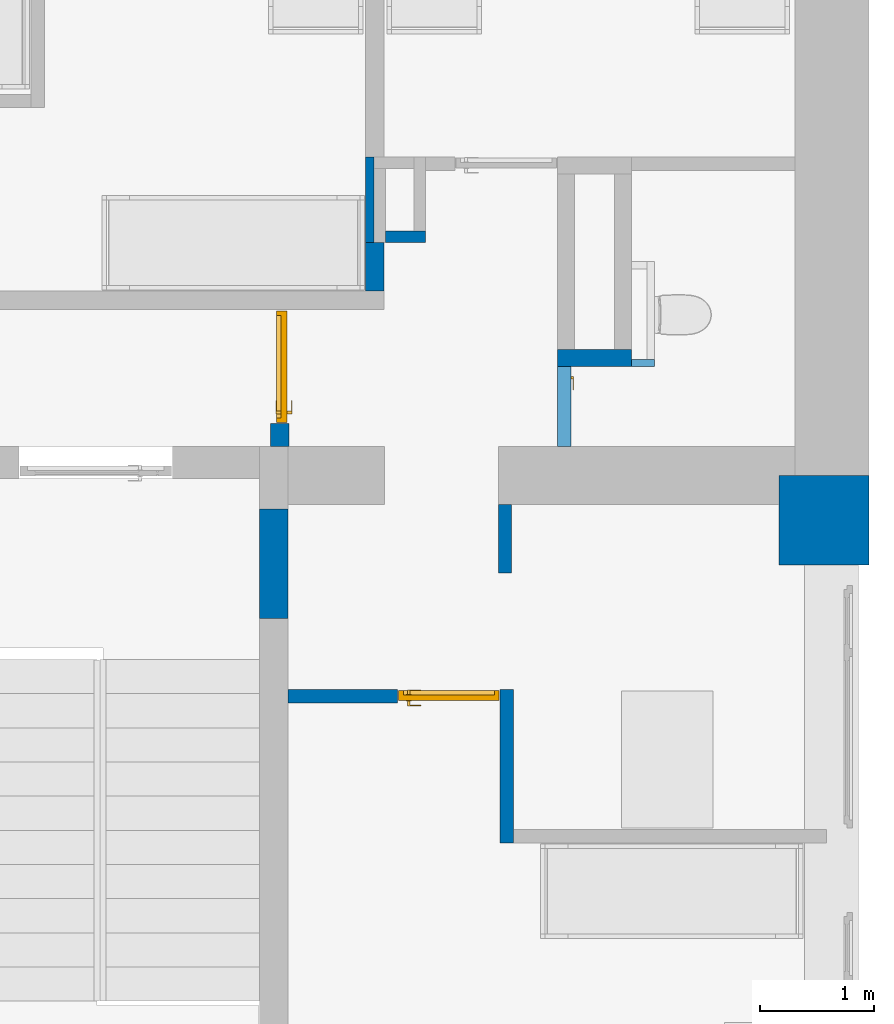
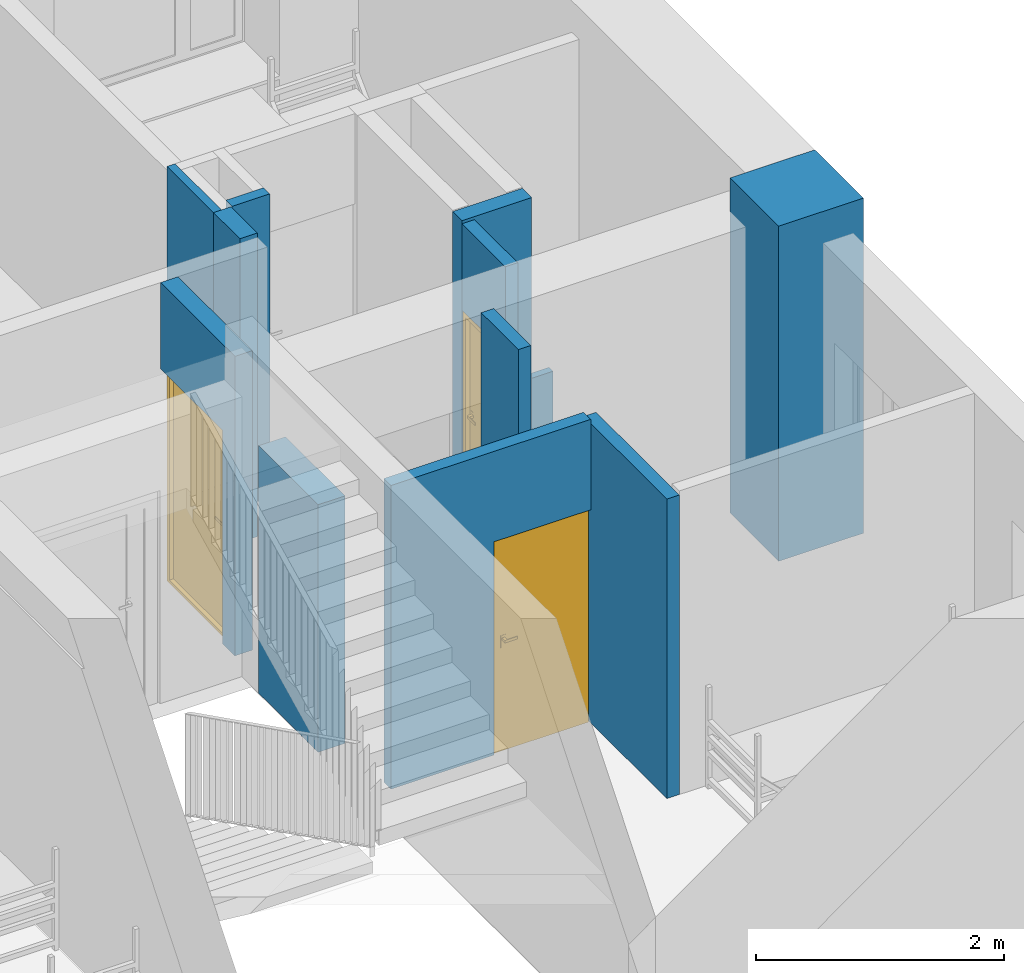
# One storey, part 12 of 48: 12 walls, 3 doors, 5 openings.
"""IFC2X3 building model written with IfcOpenShell, lengths in millimetres."""

from ifc_helpers import new_model, entity, si_unit, converted_unit, derived_unit, direction, frame, frame_2d, origin, place, context, subcontext, project, spatial, rectangle, extrude, faceted_brep, source, transform, mapped, material, material_list, layer, layer_set, layer_usage, type_object, type_shapes, element, fill, save


model = new_model("IFC2X3")

# Units and contexts
model_context = context("Model", 3, precision=0.01, world=origin(), true_north=direction((6.12303176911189e-17, 1.0)))
body_context = subcontext(model_context, "Body", "Model", "MODEL_VIEW")
ifc_project = project(units=[si_unit("LENGTHUNIT", "METRE", prefix="MILLI"), si_unit("AREAUNIT", "SQUARE_METRE"), si_unit("VOLUMEUNIT", "CUBIC_METRE"), converted_unit("PLANEANGLEUNIT", "DEGREE", entity("IfcRatioMeasure", 0.0174532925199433), si_unit("PLANEANGLEUNIT", "RADIAN"), dimensions=[0, 0, 0, 0, 0, 0, 0]), si_unit("MASSUNIT", "GRAM", prefix="KILO"), derived_unit("MASSDENSITYUNIT", [(si_unit("MASSUNIT", "GRAM", prefix="KILO"), 1), (si_unit("LENGTHUNIT", "METRE"), -3)]), si_unit("TIMEUNIT", "SECOND"), si_unit("FREQUENCYUNIT", "HERTZ"), si_unit("THERMODYNAMICTEMPERATUREUNIT", "DEGREE_CELSIUS"), derived_unit("THERMALTRANSMITTANCEUNIT", [(si_unit("MASSUNIT", "GRAM", prefix="KILO"), 1), (si_unit("THERMODYNAMICTEMPERATUREUNIT", "KELVIN"), -1), (si_unit("TIMEUNIT", "SECOND"), -3)]), derived_unit("VOLUMETRICFLOWRATEUNIT", [(si_unit("LENGTHUNIT", "METRE"), 3), (si_unit("TIMEUNIT", "SECOND"), -1)]), si_unit("ELECTRICCURRENTUNIT", "AMPERE"), si_unit("ELECTRICVOLTAGEUNIT", "VOLT"), si_unit("POWERUNIT", "WATT"), si_unit("FORCEUNIT", "NEWTON", prefix="KILO"), si_unit("ILLUMINANCEUNIT", "LUX"), si_unit("LUMINOUSFLUXUNIT", "LUMEN"), si_unit("LUMINOUSINTENSITYUNIT", "CANDELA"), derived_unit("USERDEFINED", [(si_unit("MASSUNIT", "GRAM", prefix="KILO"), -1), (si_unit("LENGTHUNIT", "METRE"), -2), (si_unit("TIMEUNIT", "SECOND"), 3), (si_unit("LUMINOUSFLUXUNIT", "LUMEN"), 1)]), derived_unit("LINEARVELOCITYUNIT", [(si_unit("LENGTHUNIT", "METRE"), 1), (si_unit("TIMEUNIT", "SECOND"), -1)]), si_unit("PRESSUREUNIT", "PASCAL"), derived_unit("USERDEFINED", [(si_unit("LENGTHUNIT", "METRE"), -2), (si_unit("MASSUNIT", "GRAM", prefix="KILO"), 1), (si_unit("TIMEUNIT", "SECOND"), -2)]), derived_unit("LINEARFORCEUNIT", [(si_unit("MASSUNIT", "GRAM", prefix="KILO"), 1), (si_unit("LENGTHUNIT", "METRE"), 1), (si_unit("TIMEUNIT", "SECOND"), -2), (si_unit("LENGTHUNIT", "METRE"), -1)]), derived_unit("PLANARFORCEUNIT", [(si_unit("MASSUNIT", "GRAM", prefix="KILO"), 1), (si_unit("LENGTHUNIT", "METRE"), 1), (si_unit("TIMEUNIT", "SECOND"), -2), (si_unit("LENGTHUNIT", "METRE"), -2)])], contexts=[model_context])

# Site, building, storey
site_placement = place(None, origin())
site = spatial("IfcSite", under=ifc_project, at=site_placement, Name="Default", CompositionType="ELEMENT")
building_placement = place(site_placement, origin())
building = spatial("IfcBuilding", under=site, at=building_placement, Name="SMA ARH", CompositionType="ELEMENT")
storey_placement = place(building_placement, frame((0.0, 0.0, 3300.0)))
storey = spatial("IfcBuildingStorey", under=building, at=storey_placement, Name="2 Korrus", CompositionType="ELEMENT", Elevation=3299.99999999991)

# Wall, opening
ifc_material_1 = material(Name="EST. Müüritis. Väikeplokk. Kergkruusplokk")
ifc_layer_1 = layer(ifc_material_1, 150.0)
ifc_layer_set_1 = layer_set([ifc_layer_1], Name="Basic Wall:SS-02_ 150mm šahtide vahesein")
ifc_layer_usage_1 = layer_usage(ifc_layer_set_1, "AXIS2", "POSITIVE", -75.0)
wall_type_1 = type_object("IfcWallType", Name="Basic Wall:SS-02_ 150mm šahtide vahesein", PredefinedType="STANDARD", material=ifc_layer_set_1)
wall_1_placement = place(storey_placement, frame((36880.0, 7295.0, 0.0), z_axis=(0.0, 0.0, 1.0), x_axis=(-1.0, 0.0, 0.0)))
wall_1 = element("IfcWallStandardCase", 1, at=wall_1_placement, inside=storey, type_object=wall_type_1, material=ifc_layer_usage_1, Name="Basic Wall:SS-02_ 150mm šahtide vahesein", ObjectType="Basic Wall:SS-02_ 150mm šahtide vahesein", context=body_context, shape_type="SweptSolid", body=[
    extrude(rectangle(XDim=649.999999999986, YDim=150.000000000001, at=frame_2d((324.999999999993, 4.68958205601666e-13), x_axis=(-1.0, 0.0))), origin(), (0.0, 0.0, 1.0), 2979.99999999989),
])
opening_1_placement = place(wall_1_placement, origin())
element("IfcOpeningElement", 2, at=opening_1_placement, cuts=wall_1, Name="Basic Wall:SS-02_ 150mm šahtide vahesein", ObjectType="Opening", context=body_context, shape_type="SweptSolid", body=[
    extrude(rectangle(XDim=2099.99999999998, YDim=116.0, at=frame_2d((0.0, 0.0), x_axis=(0.0, 1.0))), frame((592.0, 75.0000093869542, 1050.0), z_axis=(0.0, 1.0, 0.0), x_axis=(-1.0, 0.0, 0.0)), (0.0, 0.0, 1.0), 700.0),
])

# Wall
ifc_material_2 = material(Name="_ol.olev sein")
ifc_layer_2 = layer(ifc_material_2, 790.0)
ifc_layer_set_2 = layer_set([ifc_layer_2], Name="Basic Wall:Generic - 790mm")
ifc_layer_usage_2 = layer_usage(ifc_layer_set_2, "AXIS2", "NEGATIVE", 395.0)
wall_type_2 = type_object("IfcWallType", Name="Basic Wall:Generic - 790mm", PredefinedType="STANDARD", material=ifc_layer_set_2)
wall_2_placement = place(storey_placement, frame((38570.0, 6265.0, 0.0), z_axis=(0.0, 0.0, 1.0), x_axis=(0.0, -1.0, 0.0)))
element("IfcWallStandardCase", 3, at=wall_2_placement, inside=storey, type_object=wall_type_2, material=ifc_layer_usage_2, Name="Basic Wall:Generic - 790mm", ObjectType="Basic Wall:Generic - 790mm", context=body_context, shape_type="SweptSolid", body=[
    extrude(rectangle(XDim=785.000000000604, YDim=790.000000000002, at=frame_2d((392.500000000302, 0.0), x_axis=(-1.0, 0.0))), origin(), (0.0, 0.0, 1.0), 3299.99999999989),
])

# Wall, opening, door
ifc_material_3 = material(Name="EST. Ehitusplaat. Kipsplaat")
ifc_layer_3 = layer(ifc_material_3, 12.5)
ifc_layer_4 = layer(ifc_material_3, 12.5)
ifc_material_4 = material(Name="EST. Soojustus. Mineraalvill. Default")
ifc_layer_5 = layer(ifc_material_4, 50.0)
ifc_layer_6 = layer(ifc_material_3, 12.5)
ifc_layer_7 = layer(ifc_material_4, 50.0)
ifc_layer_8 = layer(ifc_material_3, 12.5)
ifc_layer_9 = layer(ifc_material_3, 12.5)
ifc_layer_set_3 = layer_set([ifc_layer_3, ifc_layer_4, ifc_layer_5, ifc_layer_6, ifc_layer_7, ifc_layer_8, ifc_layer_9], Name="Basic Wall:SS-04_Kips, 50+50 mm metallkarkass 2")
ifc_layer_usage_3 = layer_usage(ifc_layer_set_3, "AXIS2", "NEGATIVE", 81.25)
wall_type_3 = type_object("IfcWallType", Name="Basic Wall:SS-04_Kips, 50+50 mm metallkarkass 2", PredefinedType="STANDARD", material=ifc_layer_set_3)
wall_3_placement = place(storey_placement, frame((33792.5000000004, 7720.0, 0.0), z_axis=(0.0, 0.0, 1.0), x_axis=(0.0, -1.0, 0.0)))
wall_3 = element("IfcWallStandardCase", 4, at=wall_3_placement, inside=storey, type_object=wall_type_3, material=ifc_layer_usage_3, Name="Basic Wall:SS-04_Kips, 50+50 mm metallkarkass 2", ObjectType="Basic Wall:SS-04_Kips, 50+50 mm metallkarkass 2", context=body_context, shape_type="SweptSolid", body=[
    extrude(rectangle(XDim=1200.00000000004, YDim=162.499999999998, at=frame_2d((600.000000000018, 0.0), x_axis=(-1.0, 0.0))), origin(), (0.0, 0.0, 1.0), 2949.99999999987),
])
opening_2_placement = place(wall_3_placement, frame((0.0, -81.2499999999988, 0.0)))
opening_2 = element("IfcOpeningElement", 5, at=opening_2_placement, cuts=wall_3, Name="SMA_D01, 1-poolne:SU-P-04 - 1000x2100 EI-30:1", ObjectType="Opening", context=body_context, shape_type="SweptSolid", body=[
    extrude(rectangle(XDim=2099.99999999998, YDim=1000.0, at=frame_2d((1049.99999999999, 500.0), x_axis=(1.0, 0.0))), frame((0.0, 0.0, 0.0), z_axis=(0.0, 1.0, 0.0), x_axis=(0.0, 0.0, 1.0)), (0.0, 0.0, 1.0), 162.5),
])
ifc_material_5 = material(Name="EST. Metall. Alumiinium. Värvitud. RAL7023 (Concrete grey)")
ifc_material_6 = material(Name="<Unnamed>")
ifc_material_7 = material(Name="EST. Klaas. 3x. Default")
ifc_material_list_1 = material_list([ifc_material_5, ifc_material_5, ifc_material_5, ifc_material_6, ifc_material_7, ifc_material_6, ifc_material_6])
door_style_1 = type_object("IfcDoorStyle", Name="SMA_D01, 1-poolne:SU-P-04 - 1000x2100 EI-30", ConstructionType="NOTDEFINED", OperationType="SINGLE_SWING_LEFT", ParameterTakesPrecedence=False, Sizeable=False, material=ifc_material_list_1)
shared_shape_1 = source(origin(), body_context, "Body", "Brep", [
    faceted_brep([(890.0, 52.5000000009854, 1112.5), (795.0, 52.5000000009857, 1112.5), (795.0, 47.5000000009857, 1112.5), (915.0, 47.5000000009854, 1112.5), (915.0, 90.5000000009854, 1112.5), (890.0, 90.5000000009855, 1112.5), (890.0, 52.5000000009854, 1087.5), (890.0, 90.5000000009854, 1087.5), (915.0, 90.5000000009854, 1087.5), (915.0, 47.5000000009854, 1087.5), (795.0, 47.5000000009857, 1087.5), (795.0, 52.5000000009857, 1087.5)], [[[0, 1, 2, 3, 4, 5]], [[6, 7, 8, 9, 10, 11]], [[5, 7, 6, 0]], [[4, 8, 7, 5]], [[3, 9, 8, 4]], [[2, 10, 9, 3]], [[1, 11, 10, 2]], [[0, 6, 11, 1]]]),
    faceted_brep([(877.500000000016, 90.5000000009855, 1137.5), (927.500000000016, 90.5000000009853, 1137.5), (927.500000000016, 92.5000000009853, 1137.5), (877.500000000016, 92.5000000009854, 1137.5), (877.500000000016, 90.5000000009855, 1017.5), (877.500000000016, 92.5000000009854, 1017.5), (927.500000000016, 92.5000000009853, 1017.5), (927.500000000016, 90.5000000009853, 1017.5)], [[[0, 1, 2, 3]], [[4, 5, 6, 7]], [[3, 5, 4, 0]], [[2, 6, 5, 3]], [[1, 7, 6, 2]], [[0, 4, 7, 1]]]),
    faceted_brep([(890.0, 182.500000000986, 1112.5), (890.0, 144.500000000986, 1112.5), (915.0, 144.500000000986, 1112.5), (915.0, 187.500000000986, 1112.5), (795.0, 187.500000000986, 1112.5), (795.0, 182.500000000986, 1112.5), (890.0, 182.500000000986, 1087.5), (795.0, 182.500000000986, 1087.5), (795.0, 187.500000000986, 1087.5), (915.0, 187.500000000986, 1087.5), (915.0, 144.500000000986, 1087.5), (890.0, 144.500000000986, 1087.5)], [[[0, 1, 2, 3, 4, 5]], [[6, 7, 8, 9, 10, 11]], [[1, 0, 6, 11]], [[2, 1, 11, 10]], [[3, 2, 10, 9]], [[4, 3, 9, 8]], [[5, 4, 8, 7]], [[0, 5, 7, 6]]]),
    faceted_brep([(877.500000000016, 144.500000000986, 1137.5), (877.500000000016, 142.500000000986, 1137.5), (927.500000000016, 142.500000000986, 1137.5), (927.500000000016, 144.500000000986, 1137.5), (877.500000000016, 144.500000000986, 1017.5), (927.500000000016, 144.500000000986, 1017.5), (927.500000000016, 142.500000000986, 1017.5), (877.500000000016, 142.500000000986, 1017.5)], [[[0, 1, 2, 3]], [[4, 5, 6, 7]], [[1, 0, 4, 7]], [[2, 1, 7, 6]], [[3, 2, 6, 5]], [[0, 3, 5, 4]]]),
    faceted_brep([(50.0, 52.5000000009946, 30.0), (50.0, 92.5000000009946, 30.0), (50.0, 92.5000000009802, 20.0), (50.0, 92.5000000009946, 0.0), (50.0, 52.5000000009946, 0.0), (950.0, 52.5000000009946, 30.0), (950.0, 52.5000000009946, 0.0), (950.0, 92.5000000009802, 0.0), (950.0, 92.5000000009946, 20.0), (950.0, 92.5000000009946, 30.0), (35.0, 92.5000000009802, 0.0), (35.0, 142.500000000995, 0.0), (965.0, 142.500000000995, 0.0), (965.0, 92.5000000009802, 0.0), (35.0, 142.500000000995, 20.0), (35.0, 92.5000000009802, 20.0), (965.0, 142.500000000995, 20.0), (965.0, 92.5000000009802, 20.0)], [[[0, 1, 2, 3, 4]], [[5, 6, 7, 8, 9]], [[4, 6, 5, 0]], [[3, 10, 11, 12, 13, 7, 6, 4]], [[9, 8, 2, 1]], [[0, 5, 9, 1]], [[14, 11, 10, 15]], [[16, 17, 13, 12]], [[15, 2, 8, 17, 16, 14]], [[10, 3, 2, 15]], [[14, 16, 12, 11]], [[17, 8, 7, 13]]]),
    faceted_brep([(10.0, 52.5000000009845, 0.0), (10.0, 142.500000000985, 0.0), (35.0, 142.500000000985, 0.0), (35.0, 92.5000000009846, 0.0), (50.0, 92.5000000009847, 0.0), (50.0, 52.5000000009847, 0.0), (50.0, 52.5000000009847, 2050.0), (950.0, 52.5000000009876, 2050.0), (950.0, 52.5000000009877, 0.0), (990.0, 52.5000000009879, 0.0), (990.0, 52.5000000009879, 2090.0), (10.0, 52.5000000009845, 2090.0), (50.0, 92.5000000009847, 2050.0), (35.0, 92.5000000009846, 2065.0), (965.0, 92.5000000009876, 2065.0), (965.0, 92.5000000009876, 0.0), (950.0, 92.5000000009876, 0.0), (950.0, 92.5000000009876, 2050.0), (35.0, 142.500000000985, 2065.0), (10.0, 142.500000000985, 2090.0), (990.0, 142.500000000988, 2090.0), (990.0, 142.500000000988, 0.0), (965.0, 142.500000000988, 0.0), (965.0, 142.500000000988, 2065.0)], [[[0, 1, 2, 3, 4, 5]], [[5, 6, 7, 8, 9, 10, 11, 0]], [[4, 12, 6, 5]], [[3, 13, 14, 15, 16, 17, 12, 4]], [[2, 18, 13, 3]], [[1, 19, 20, 21, 22, 23, 18, 2]], [[0, 11, 19, 1]], [[9, 21, 20, 10]], [[8, 16, 15, 22, 21, 9]], [[7, 17, 16, 8]], [[14, 23, 22, 15]], [[6, 12, 17, 7]], [[13, 18, 23, 14]], [[10, 20, 19, 11]]]),
    faceted_brep([(965.0, 92.5000000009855, 2065.0), (35.0, 92.5000000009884, 2065.0), (35.0, 92.5000000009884, 20.0), (965.0, 92.5000000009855, 20.0), (965.0, 142.500000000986, 2065.0), (965.0, 142.500000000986, 20.0), (35.0, 142.500000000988, 20.0), (35.0, 142.500000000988, 2065.0)], [[[0, 1, 2, 3]], [[4, 5, 6, 7]], [[3, 5, 4, 0]], [[2, 6, 5, 3]], [[1, 7, 6, 2]], [[0, 4, 7, 1]]]),
])
type_shapes(door_style_1, [shared_shape_1])
door_1_placement = place(opening_2_placement, origin())
door_1 = element("IfcDoor", 6, at=door_1_placement, inside=storey, type_object=door_style_1, material=ifc_material_5, Name="SMA_D01, 1-poolne:SU-P-04 - 1000x2100 EI-30", ObjectType="SMA_D01, 1-poolne:SU-P-04 - 1000x2100 EI-30", OverallHeight=2099.99999999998, OverallWidth=999.999999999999, context=body_context, shape_type="MappedRepresentation", body=[
    mapped(shared_shape_1, transform((0.0, 0.0, 0.0), scale=1.0)),
])
fill(opening_2, door_1)

# Wall
ifc_layer_usage_4 = layer_usage(ifc_layer_set_3, "AXIS2", "NEGATIVE", 81.25)
wall_4_placement = place(storey_placement, frame((34625.5000000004, 8309.50140528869, 0.0), z_axis=(0.0, 0.0, 1.0), x_axis=(0.0, -1.0, 0.0)))
element("IfcWallStandardCase", 7, at=wall_4_placement, inside=storey, type_object=wall_type_3, material=ifc_layer_usage_4, Name="Basic Wall:SS-04_Kips, 50+50 mm metallkarkass 2", ObjectType="Basic Wall:SS-04_Kips, 50+50 mm metallkarkass 2", context=body_context, shape_type="SweptSolid", body=[
    extrude(rectangle(XDim=427.001405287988, YDim=162.499999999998, at=frame_2d((213.500702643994, 0.0), x_axis=(-1.0, 0.0))), origin(), (0.0, 0.0, 1.0), 2989.99999999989),
])

# Wall, opening
ifc_layer_10 = layer(ifc_material_3, 12.5)
ifc_layer_11 = layer(ifc_material_3, 12.5)
ifc_layer_12 = layer(ifc_material_4, 66.0)
ifc_layer_13 = layer(ifc_material_3, 12.5)
ifc_layer_14 = layer(ifc_material_3, 12.5)
ifc_layer_set_4 = layer_set([ifc_layer_10, ifc_layer_11, ifc_layer_12, ifc_layer_13, ifc_layer_14], Name="Basic Wall:SS-05_Kips, 66mm metallkarkass")
ifc_layer_usage_5 = layer_usage(ifc_layer_set_4, "AXIS2", "NEGATIVE", 58.0)
wall_type_4 = type_object("IfcWallType", Name="Basic Wall:SS-05_Kips, 66mm metallkarkass", PredefinedType="STANDARD", material=ifc_layer_set_4)
wall_5_placement = place(storey_placement, frame((35783.5000000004, 3039.50000000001, 0.0), z_axis=(0.0, 0.0, 1.0), x_axis=(0.0, 1.0, 0.0)))
wall_5 = element("IfcWallStandardCase", 8, at=wall_5_placement, inside=storey, type_object=wall_type_4, material=ifc_layer_usage_5, Name="Basic Wall:SS-05_Kips, 66mm metallkarkass", ObjectType="Basic Wall:SS-05_Kips, 66mm metallkarkass", context=body_context, shape_type="SweptSolid", body=[
    extrude(rectangle(XDim=1344.49999999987, YDim=116.0, at=frame_2d((672.249999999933, 0.0), x_axis=(-1.0, 0.0))), origin(), (0.0, 0.0, 1.0), 2949.99999999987),
])
opening_3_placement = place(wall_5_placement, origin())
element("IfcOpeningElement", 9, at=opening_3_placement, cuts=wall_5, Name="Basic Wall:SS-05_Kips, 66mm metallkarkass", ObjectType="Opening", context=body_context, shape_type="SweptSolid", body=[
    extrude(rectangle(XDim=2099.99999999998, YDim=116.0, at=frame_2d((2.70006239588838e-13, 0.0), x_axis=(0.0, 1.0))), frame((1286.49999999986, 58.0, 1050.0), z_axis=(0.0, 1.0, 0.0), x_axis=(1.0, 0.0, 0.0)), (0.0, 0.0, 1.0), 900.000000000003),
])

# Wall
ifc_layer_usage_6 = layer_usage(ifc_layer_set_4, "AXIS2", "NEGATIVE", 58.0)
wall_6_placement = place(storey_placement, frame((35768.0, 6010.0, 0.0), z_axis=(0.0, 0.0, 1.0), x_axis=(0.0, -1.0, 0.0)))
element("IfcWallStandardCase", 10, at=wall_6_placement, inside=storey, type_object=wall_type_4, material=ifc_layer_usage_6, Name="Basic Wall:SS-05_Kips, 66mm metallkarkass", ObjectType="Basic Wall:SS-05_Kips, 66mm metallkarkass", context=body_context, shape_type="SweptSolid", body=[
    extrude(rectangle(XDim=599.999999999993, YDim=116.0, at=frame_2d((299.999999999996, 0.0), x_axis=(-1.0, 0.0))), origin(), (0.0, 0.0, 1.0), 2989.99999999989),
])

# Wall, opening, door
ifc_layer_usage_7 = layer_usage(ifc_layer_set_4, "AXIS2", "NEGATIVE", 58.0)
wall_7_placement = place(storey_placement, frame((35725.5000000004, 4326.0, 0.0), z_axis=(0.0, 0.0, 1.0), x_axis=(-1.0, 0.0, 0.0)))
wall_7 = element("IfcWallStandardCase", 11, at=wall_7_placement, inside=storey, type_object=wall_type_4, material=ifc_layer_usage_7, Name="Basic Wall:SS-05_Kips, 66mm metallkarkass", ObjectType="Basic Wall:SS-05_Kips, 66mm metallkarkass", context=body_context, shape_type="SweptSolid", body=[
    extrude(rectangle(XDim=1860.50000000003, YDim=116.0, at=frame_2d((930.250000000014, -1.59872115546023e-13), x_axis=(-1.0, 0.0))), origin(), (0.0, 0.0, 1.0), 2989.99999999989),
])
opening_4_placement = place(wall_7_placement, frame((0.0, -58.0, 0.0)))
opening_4 = element("IfcOpeningElement", 12, at=opening_4_placement, cuts=wall_7, Name="SMA_D01, 1-poolne:SU-P-05 - 900x2100 TUBA:1", ObjectType="Opening", context=body_context, shape_type="SweptSolid", body=[
    extrude(rectangle(XDim=2099.99999999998, YDim=900.0, at=frame_2d((1049.99999999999, 450.000000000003), x_axis=(1.0, 0.0))), frame((0.0, 0.0, 0.0), z_axis=(0.0, 1.0, 0.0), x_axis=(0.0, 0.0, 1.0)), (0.0, 0.0, 1.0), 116.0),
])
ifc_material_list_2 = material_list([ifc_material_5, ifc_material_6, ifc_material_5, ifc_material_6, ifc_material_6, ifc_material_7, ifc_material_5])
door_style_2 = type_object("IfcDoorStyle", Name="SMA_D01, 1-poolne:SU-P-05 - 900x2100 TUBA", ConstructionType="NOTDEFINED", OperationType="SINGLE_SWING_LEFT", ParameterTakesPrecedence=False, Sizeable=False, material=ifc_material_list_2)
shared_shape_2 = source(origin(), body_context, "Body", "Brep", [
    faceted_brep([(790.0, 6.0, 1112.5), (695.0, 6.0, 1112.5), (695.0, 1.0, 1112.5), (815.0, 1.0, 1112.5), (815.0, 44.0, 1112.5), (790.0, 44.0, 1112.5), (790.0, 6.0, 1087.5), (790.0, 44.0, 1087.5), (815.0, 44.0, 1087.5), (815.0, 1.0, 1087.5), (695.0, 1.0, 1087.5), (695.0, 6.0, 1087.5)], [[[0, 1, 2, 3, 4, 5]], [[6, 7, 8, 9, 10, 11]], [[5, 7, 6, 0]], [[4, 8, 7, 5]], [[3, 9, 8, 4]], [[2, 10, 9, 3]], [[1, 11, 10, 2]], [[0, 6, 11, 1]]]),
    faceted_brep([(777.500000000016, 44.0, 1137.5), (827.500000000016, 44.0, 1137.5), (827.500000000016, 46.0, 1137.5), (777.500000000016, 46.0, 1137.5), (777.500000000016, 44.0, 1017.5), (777.500000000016, 46.0, 1017.5), (827.500000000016, 46.0, 1017.5), (827.500000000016, 44.0, 1017.5)], [[[0, 1, 2, 3]], [[4, 5, 6, 7]], [[3, 5, 4, 0]], [[2, 6, 5, 3]], [[1, 7, 6, 2]], [[0, 4, 7, 1]]]),
    faceted_brep([(790.0, 136.0, 1112.5), (790.0, 98.0, 1112.5), (815.0, 98.0, 1112.5), (815.0, 141.0, 1112.5), (695.0, 141.0, 1112.5), (695.0, 136.0, 1112.5), (790.0, 136.0, 1087.5), (695.0, 136.0, 1087.5), (695.0, 141.0, 1087.5), (815.0, 141.0, 1087.5), (815.0, 98.0, 1087.5), (790.0, 98.0, 1087.5)], [[[0, 1, 2, 3, 4, 5]], [[6, 7, 8, 9, 10, 11]], [[1, 0, 6, 11]], [[2, 1, 11, 10]], [[3, 2, 10, 9]], [[4, 3, 9, 8]], [[5, 4, 8, 7]], [[0, 5, 7, 6]]]),
    faceted_brep([(777.500000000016, 98.0, 1137.5), (777.500000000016, 96.0, 1137.5), (827.500000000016, 96.0, 1137.5), (827.500000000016, 98.0, 1137.5), (777.500000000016, 98.0, 1017.5), (827.500000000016, 98.0, 1017.5), (827.500000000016, 96.0, 1017.5), (777.500000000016, 96.0, 1017.5)], [[[0, 1, 2, 3]], [[4, 5, 6, 7]], [[1, 0, 4, 7]], [[2, 1, 7, 6]], [[3, 2, 6, 5]], [[0, 3, 5, 4]]]),
    faceted_brep([(50.0, 6.0, 30.0), (50.0, 46.0, 30.0), (50.0, 46.0, 20.0), (50.0, 46.0, 0.0), (50.0, 6.0, 0.0), (850.0, 6.0, 30.0), (850.0, 6.0, 0.0), (850.0, 46.0, 0.0), (850.0, 46.0, 20.0), (850.0, 46.0, 30.0), (35.0, 46.0, 0.0), (35.0, 96.0, 0.0), (865.0, 96.0, 0.0), (865.0, 46.0, 0.0), (35.0, 96.0, 20.0), (35.0, 46.0, 20.0), (865.0, 96.0, 20.0), (865.0, 46.0, 20.0)], [[[0, 1, 2, 3, 4]], [[5, 6, 7, 8, 9]], [[4, 6, 5, 0]], [[3, 10, 11, 12, 13, 7, 6, 4]], [[9, 8, 2, 1]], [[0, 5, 9, 1]], [[14, 11, 10, 15]], [[16, 17, 13, 12]], [[15, 2, 8, 17, 16, 14]], [[10, 3, 2, 15]], [[14, 16, 12, 11]], [[17, 8, 7, 13]]]),
    faceted_brep([(10.0, 6.0, 0.0), (10.0, 96.0, 0.0), (35.0, 96.0, 0.0), (35.0, 46.0, 0.0), (50.0, 46.0, 0.0), (50.0, 6.0, 0.0), (50.0, 6.0, 2050.0), (850.0, 6.0, 2050.0), (850.0, 6.0, 0.0), (890.0, 6.0, 0.0), (890.0, 6.0, 2090.0), (10.0, 6.0, 2090.0), (50.0, 46.0, 2050.0), (35.0, 46.0, 2065.0), (865.0, 46.0, 2065.0), (865.0, 46.0, 0.0), (850.0, 46.0, 0.0), (850.0, 46.0, 2050.0), (35.0, 96.0, 2065.0), (10.0, 96.0, 2090.0), (890.0, 96.0, 2090.0), (890.0, 96.0, 0.0), (865.0, 96.0, 0.0), (865.0, 96.0, 2065.0)], [[[0, 1, 2, 3, 4, 5]], [[5, 6, 7, 8, 9, 10, 11, 0]], [[4, 12, 6, 5]], [[3, 13, 14, 15, 16, 17, 12, 4]], [[2, 18, 13, 3]], [[1, 19, 20, 21, 22, 23, 18, 2]], [[0, 11, 19, 1]], [[9, 21, 20, 10]], [[8, 16, 15, 22, 21, 9]], [[7, 17, 16, 8]], [[14, 23, 22, 15]], [[6, 12, 17, 7]], [[13, 18, 23, 14]], [[10, 20, 19, 11]]]),
    faceted_brep([(865.0, 46.0, 2065.0), (35.0, 46.0, 2065.0), (35.0, 46.0, 20.0), (865.0, 46.0, 20.0), (865.0, 96.0, 2065.0), (865.0, 96.0, 20.0), (35.0, 96.0, 20.0), (35.0, 96.0, 2065.0)], [[[0, 1, 2, 3]], [[4, 5, 6, 7]], [[3, 5, 4, 0]], [[2, 6, 5, 3]], [[1, 7, 6, 2]], [[0, 4, 7, 1]]]),
])
type_shapes(door_style_2, [shared_shape_2])
door_2_placement = place(opening_4_placement, origin())
door_2 = element("IfcDoor", 13, at=door_2_placement, inside=storey, type_object=door_style_2, material=ifc_material_5, Name="SMA_D01, 1-poolne:SU-P-05 - 900x2100 TUBA", ObjectType="SMA_D01, 1-poolne:SU-P-05 - 900x2100 TUBA", OverallHeight=2099.99999999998, OverallWidth=900.000000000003, context=body_context, shape_type="MappedRepresentation", body=[
    mapped(shared_shape_2, transform((0.0, 0.0, 0.0), scale=1.0)),
])
fill(opening_4, door_2)

ifc_layer_15 = layer(ifc_material_3, 12.5)
ifc_layer_16 = layer(ifc_material_3, 12.5)
ifc_material_8 = material(Name="EST. Õhkvahe. Roov. Kipsplaadi alusroov. Vertikaalne")
ifc_layer_17 = layer(ifc_material_8, 66.0)
ifc_layer_18 = layer(ifc_material_3, 12.5)
ifc_layer_19 = layer(ifc_material_3, 12.5)
ifc_layer_set_5 = layer_set([ifc_layer_15, ifc_layer_16, ifc_layer_17, ifc_layer_18, ifc_layer_19], Name="Basic Wall:SS-03_Kips, 66mm metallkarkass")
ifc_layer_usage_8 = layer_usage(ifc_layer_set_5, "AXIS2", "NEGATIVE", 58.0)
wall_type_5 = type_object("IfcWallType", Name="Basic Wall:SS-03_Kips, 66mm metallkarkass", PredefinedType="STANDARD", material=ifc_layer_set_5)
wall_8_placement = place(storey_placement, frame((36288.0, 7220.0, 2100.0), z_axis=(0.0, 0.0, 1.0), x_axis=(0.0, -1.0, 0.0)))
wall_8 = element("IfcWallStandardCase", 14, at=wall_8_placement, inside=storey, type_object=wall_type_5, material=ifc_layer_usage_8, Name="Basic Wall:SS-03_Kips, 66mm metallkarkass", ObjectType="Basic Wall:SS-03_Kips, 66mm metallkarkass", context=body_context, shape_type="SweptSolid", body=[
    extrude(rectangle(XDim=700.000009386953, YDim=116.0, at=frame_2d((350.000004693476, 0.0), x_axis=(-1.0, 0.0))), origin(), (0.0, 0.0, 1.0), 849.999999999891),
])
opening_5_placement = place(wall_8_placement, frame((0.0, -58.0, -2100.0)))
opening_5 = element("IfcOpeningElement", 15, at=opening_5_placement, cuts=wall_8, Name="SMA_D01, 1-poolne:SU-P-08 - 700x2100 DUŠŠ:1", ObjectType="Opening", context=body_context, shape_type="SweptSolid", body=[
    extrude(rectangle(XDim=2099.99999999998, YDim=700.0, at=frame_2d((1049.99999999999, 350.0), x_axis=(1.0, 0.0))), frame((0.0, 0.0, 0.0), z_axis=(0.0, 1.0, 0.0), x_axis=(0.0, 0.0, 1.0)), (0.0, 0.0, 1.0), 116.0),
])
ifc_material_list_3 = material_list([ifc_material_5, ifc_material_7, ifc_material_6, ifc_material_5, ifc_material_6, ifc_material_6, ifc_material_5])
door_style_3 = type_object("IfcDoorStyle", Name="SMA_D01, 1-poolne:SU-P-08 - 700x2100 DUŠŠ", ConstructionType="NOTDEFINED", OperationType="NOTDEFINED", ParameterTakesPrecedence=False, Sizeable=False, material=ifc_material_list_3)
shared_shape_3 = source(origin(), body_context, "Body", "Brep", [
    faceted_brep([(110.0, 6.0, 1112.5), (110.0, 44.0, 1112.5), (85.0, 44.0, 1112.5), (85.0, 1.0, 1112.5), (205.0, 1.0, 1112.5), (205.0, 6.0, 1112.5), (110.0, 6.0, 1087.5), (205.0, 6.0, 1087.5), (205.0, 1.0, 1087.5), (85.0, 1.0, 1087.5), (85.0, 44.0, 1087.5), (110.0, 44.0, 1087.5)], [[[0, 1, 2, 3, 4, 5]], [[6, 7, 8, 9, 10, 11]], [[1, 0, 6, 11]], [[2, 1, 11, 10]], [[3, 2, 10, 9]], [[4, 3, 9, 8]], [[5, 4, 8, 7]], [[0, 5, 7, 6]]]),
    faceted_brep([(122.5, 44.0, 1137.5), (122.5, 46.0, 1137.5), (72.4999999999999, 46.0, 1137.5), (72.4999999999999, 44.0, 1137.5), (122.5, 44.0, 1017.5), (72.4999999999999, 44.0, 1017.5), (72.4999999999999, 46.0, 1017.5), (122.5, 46.0, 1017.5)], [[[0, 1, 2, 3]], [[4, 5, 6, 7]], [[1, 0, 4, 7]], [[2, 1, 7, 6]], [[3, 2, 6, 5]], [[0, 3, 5, 4]]]),
    faceted_brep([(110.0, 136.0, 1112.5), (205.0, 136.0, 1112.5), (205.0, 141.0, 1112.5), (85.0, 141.0, 1112.5), (85.0, 98.0, 1112.5), (110.0, 98.0, 1112.5), (110.0, 136.0, 1087.5), (110.0, 98.0, 1087.5), (85.0, 98.0, 1087.5), (85.0, 141.0, 1087.5), (205.0, 141.0, 1087.5), (205.0, 136.0, 1087.5)], [[[0, 1, 2, 3, 4, 5]], [[6, 7, 8, 9, 10, 11]], [[5, 7, 6, 0]], [[4, 8, 7, 5]], [[3, 9, 8, 4]], [[2, 10, 9, 3]], [[1, 11, 10, 2]], [[0, 6, 11, 1]]]),
    faceted_brep([(122.5, 98.0, 1137.5), (72.4999999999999, 98.0, 1137.5), (72.4999999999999, 96.0, 1137.5), (122.5, 96.0, 1137.5), (122.5, 98.0, 1017.5), (122.5, 96.0, 1017.5), (72.4999999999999, 96.0, 1017.5), (72.4999999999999, 98.0, 1017.5)], [[[0, 1, 2, 3]], [[4, 5, 6, 7]], [[3, 5, 4, 0]], [[2, 6, 5, 3]], [[1, 7, 6, 2]], [[0, 4, 7, 1]]]),
    faceted_brep([(650.0, 6.0, 30.0), (650.0, 6.0, 0.0), (650.0, 46.0, 0.0), (650.0, 46.0, 20.0), (650.0, 46.0, 30.0), (50.0, 6.0, 30.0), (50.0, 46.0, 30.0), (50.0, 46.0, 20.0), (50.0, 46.0, 0.0), (50.0, 6.0, 0.0), (35.0, 46.0, 0.0), (35.0, 96.0, 0.0), (665.0, 96.0, 0.0), (665.0, 46.0, 0.0), (665.0, 96.0, 20.0), (665.0, 46.0, 20.0), (35.0, 96.0, 20.0), (35.0, 46.0, 20.0)], [[[0, 1, 2, 3, 4]], [[5, 6, 7, 8, 9]], [[1, 0, 5, 9]], [[2, 1, 9, 8, 10, 11, 12, 13]], [[6, 4, 3, 7]], [[0, 4, 6, 5]], [[14, 15, 13, 12]], [[16, 11, 10, 17]], [[15, 14, 16, 17, 7, 3]], [[13, 15, 3, 2]], [[14, 12, 11, 16]], [[17, 10, 8, 7]]]),
    faceted_brep([(690.0, 6.0, 0.0), (650.0, 6.0, 0.0), (650.0, 46.0, 0.0), (665.0, 46.0, 0.0), (665.0, 96.0, 0.0), (690.0, 96.0, 0.0), (690.0, 6.0, 2090.0), (10.0, 6.0, 2090.0), (10.0, 6.0, 0.0), (50.0, 6.0, 0.0), (50.0, 6.0, 2050.0), (650.0, 6.0, 2050.0), (650.0, 46.0, 2050.0), (50.0, 46.0, 2050.0), (50.0, 46.0, 0.0), (35.0, 46.0, 0.0), (35.0, 46.0, 2065.0), (665.0, 46.0, 2065.0), (665.0, 96.0, 2065.0), (35.0, 96.0, 2065.0), (35.0, 96.0, 0.0), (10.0, 96.0, 0.0), (10.0, 96.0, 2090.0), (690.0, 96.0, 2090.0)], [[[0, 1, 2, 3, 4, 5]], [[1, 0, 6, 7, 8, 9, 10, 11]], [[2, 1, 11, 12]], [[3, 2, 12, 13, 14, 15, 16, 17]], [[4, 3, 17, 18]], [[5, 4, 18, 19, 20, 21, 22, 23]], [[0, 5, 23, 6]], [[8, 7, 22, 21]], [[9, 8, 21, 20, 15, 14]], [[10, 9, 14, 13]], [[16, 15, 20, 19]], [[11, 10, 13, 12]], [[17, 16, 19, 18]], [[7, 6, 23, 22]]]),
    faceted_brep([(35.0, 46.0, 2065.0), (35.0, 46.0, 20.0), (665.0, 46.0, 20.0), (665.0, 46.0, 2065.0), (35.0, 96.0, 2065.0), (665.0, 96.0, 2065.0), (665.0, 96.0, 20.0), (35.0, 96.0, 20.0)], [[[0, 1, 2, 3]], [[4, 5, 6, 7]], [[1, 0, 4, 7]], [[2, 1, 7, 6]], [[3, 2, 6, 5]], [[0, 3, 5, 4]]]),
])
type_shapes(door_style_3, [shared_shape_3])
door_3_placement = place(opening_5_placement, origin())
door_3 = element("IfcDoor", 16, at=door_3_placement, inside=storey, type_object=door_style_3, material=ifc_material_5, Name="SMA_D01, 1-poolne:SU-P-08 - 700x2100 DUŠŠ", ObjectType="SMA_D01, 1-poolne:SU-P-08 - 700x2100 DUŠŠ", OverallHeight=2099.99999999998, OverallWidth=700.0, context=body_context, shape_type="MappedRepresentation", body=[
    mapped(shared_shape_3, transform((0.0, 0.0, 0.0), scale=1.0)),
])
fill(opening_5, door_3)

# Walls
ifc_material_9 = material(Name="EST. Põrand. Plaatkate")
ifc_layer_20 = layer(ifc_material_9, 10.0)
ifc_layer_21 = layer(ifc_material_3, 12.5)
ifc_layer_22 = layer(ifc_material_8, 42.0)
ifc_layer_set_6 = layer_set([ifc_layer_20, ifc_layer_21, ifc_layer_22], Name="Basic Wall:SS-04 - loputuskast")
ifc_layer_usage_9 = layer_usage(ifc_layer_set_6, "AXIS2", "NEGATIVE", 32.25)
wall_type_6 = type_object("IfcWallType", Name="Basic Wall:SS-04 - loputuskast", PredefinedType="STANDARD", material=ifc_layer_set_6)
wall_9_placement = place(storey_placement, frame((37080.0, 7252.25000938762, 0.0), z_axis=(0.0, 0.0, 1.0), x_axis=(-1.0, 0.0, 0.0)))
element("IfcWallStandardCase", 17, at=wall_9_placement, inside=storey, type_object=wall_type_6, material=ifc_layer_usage_9, Name="Basic Wall:SS-04 - loputuskast", ObjectType="Basic Wall:SS-04 - loputuskast", context=body_context, shape_type="SweptSolid", body=[
    extrude(rectangle(XDim=199.999999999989, YDim=64.5000000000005, at=frame_2d((99.9999999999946, -4.36983782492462e-13), x_axis=(-1.0, 0.0))), origin(), (0.0, 0.0, 1.0), 1200.0),
])
ifc_layer_23 = layer(ifc_material_1, 100.0)
ifc_layer_set_7 = layer_set([ifc_layer_23], Name="Basic Wall:SS-02_ 100mm šahtide vahesein 2")
ifc_layer_usage_10 = layer_usage(ifc_layer_set_7, "AXIS2", "NEGATIVE", 50.0)
wall_type_7 = type_object("IfcWallType", Name="Basic Wall:SS-02_ 100mm šahtide vahesein 2", PredefinedType="STANDARD", material=ifc_layer_set_7)
wall_10_placement = place(storey_placement, frame((34719.2500000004, 8359.50140528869, 0.0)))
element("IfcWallStandardCase", 18, at=wall_10_placement, inside=storey, type_object=wall_type_7, material=ifc_layer_usage_10, Name="Basic Wall:SS-02_ 100mm šahtide vahesein 2", ObjectType="Basic Wall:SS-02_ 100mm šahtide vahesein 2", context=body_context, shape_type="SweptSolid", body=[
    extrude(rectangle(XDim=350.000000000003, YDim=100.000000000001, at=frame_2d((175.000000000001, 6.3948846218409e-14), x_axis=(-1.0, 0.0))), origin(), (0.0, 0.0, 1.0), 2989.99999999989),
])
ifc_layer_24 = layer(ifc_material_1, 250.0)
ifc_layer_set_8 = layer_set([ifc_layer_24], Name="Basic Wall:SS-00_Fibo 250mm")
ifc_layer_usage_11 = layer_usage(ifc_layer_set_8, "AXIS2", "NEGATIVE", 125.0)
wall_type_8 = type_object("IfcWallType", Name="Basic Wall:SS-00_Fibo 250mm", PredefinedType="STANDARD", material=ifc_layer_set_8)
wall_11_placement = place(storey_placement, frame((33740.0, 5010.0, 0.0), z_axis=(0.0, 0.0, 1.0), x_axis=(0.0, 1.0, 0.0)))
element("IfcWallStandardCase", 19, at=wall_11_placement, inside=storey, type_object=wall_type_8, material=ifc_layer_usage_11, Name="Basic Wall:SS-00_Fibo 250mm", ObjectType="Basic Wall:SS-00_Fibo 250mm", context=body_context, shape_type="SweptSolid", body=[
    extrude(rectangle(XDim=959.999999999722, YDim=250.000000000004, at=frame_2d((479.999999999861, 0.0), x_axis=(-1.0, 0.0))), origin(), (0.0, 0.0, 1.0), 2438.4),
])
ifc_layer_25 = layer(ifc_material_8, 50.0)
ifc_layer_26 = layer(ifc_material_3, 12.5)
ifc_layer_27 = layer(ifc_material_3, 12.5)
ifc_layer_set_9 = layer_set([ifc_layer_25, ifc_layer_26, ifc_layer_27], Name="Basic Wall:SS-05_Kips, 50mm metallkarkass 2")
ifc_layer_usage_12 = layer_usage(ifc_layer_set_9, "AXIS2", "NEGATIVE", 37.5)
wall_type_9 = type_object("IfcWallType", Name="Basic Wall:SS-05_Kips, 50mm metallkarkass 2", PredefinedType="STANDARD", material=ifc_layer_set_9)
wall_12_placement = place(storey_placement, frame((34581.7500000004, 9059.5014052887, 0.0), z_axis=(0.0, 0.0, 1.0), x_axis=(0.0, -1.0, 0.0)))
element("IfcWallStandardCase", 20, at=wall_12_placement, inside=storey, type_object=wall_type_9, material=ifc_layer_usage_12, Name="Basic Wall:SS-05_Kips, 50mm metallkarkass 2", ObjectType="Basic Wall:SS-05_Kips, 50mm metallkarkass 2", context=body_context, shape_type="SweptSolid", body=[
    extrude(rectangle(XDim=750.00000000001, YDim=75.0000000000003, at=frame_2d((375.000000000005, 0.0), x_axis=(-1.0, 0.0))), origin(), (0.0, 0.0, 1.0), 2989.99999999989),
])

save(model, "model.ifc")
